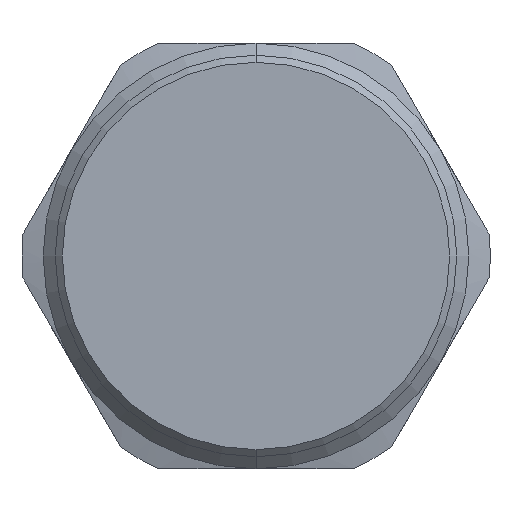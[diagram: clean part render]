
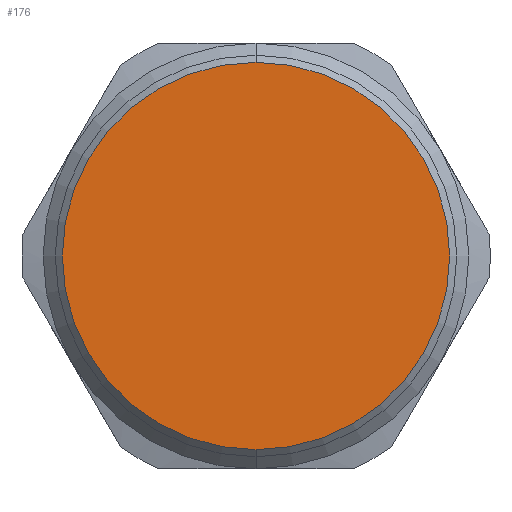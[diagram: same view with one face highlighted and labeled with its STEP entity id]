
A CAD part, front view. The second image highlights one B-rep face of the part: STEP entity #176.
In plain terms, the highlighted planar face has unit normal (0, -1, 0).
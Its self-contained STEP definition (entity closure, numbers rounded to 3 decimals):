
#151=CARTESIAN_POINT('',(0.0,-42.0,13.65));
#152=VERTEX_POINT('',#151);
#153=CARTESIAN_POINT('',(0.0,-42.0,-13.65));
#154=VERTEX_POINT('',#153);
#155=CARTESIAN_POINT('',(0.0,-42.0,0.0));
#156=DIRECTION('',(0.0,-1.0,0.0));
#157=DIRECTION('',(0.0,0.0,1.0));
#158=AXIS2_PLACEMENT_3D('',#155,#156,#157);
#159=CIRCLE('',#158,13.65);
#160=EDGE_CURVE('no 703',#152,#154,#159,.T.);
#161=ORIENTED_EDGE('',*,*,#160,.T.);
#162=CARTESIAN_POINT('',(0.0,-42.0,0.0));
#163=DIRECTION('',(0.0,-1.0,0.0));
#164=DIRECTION('',(0.0,0.0,1.0));
#165=AXIS2_PLACEMENT_3D('',#162,#163,#164);
#166=CIRCLE('',#165,13.65);
#167=EDGE_CURVE('no 707',#154,#152,#166,.T.);
#168=ORIENTED_EDGE('',*,*,#167,.T.);
#169=EDGE_LOOP('',(#161,#168));
#170=FACE_OUTER_BOUND('',#169,.T.);
#171=CARTESIAN_POINT('',(0.0,-42.0,0.0));
#172=DIRECTION('',(0.0,1.0,0.0));
#173=DIRECTION('',(0.0,0.0,1.0));
#174=AXIS2_PLACEMENT_3D('',#171,#172,#173);
#175=PLANE('',#174);
#176=ADVANCED_FACE('no 694',(#170),#175,.F.);
